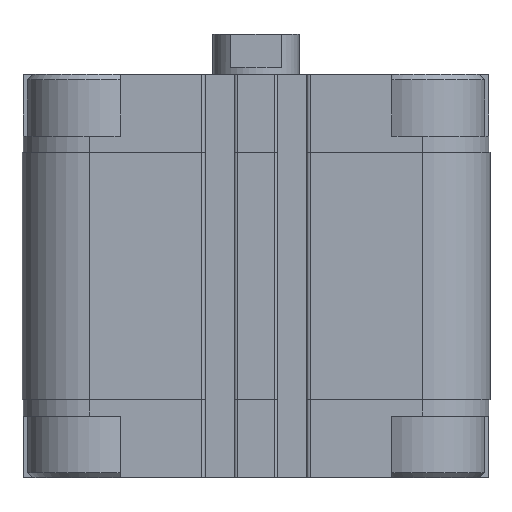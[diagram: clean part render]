
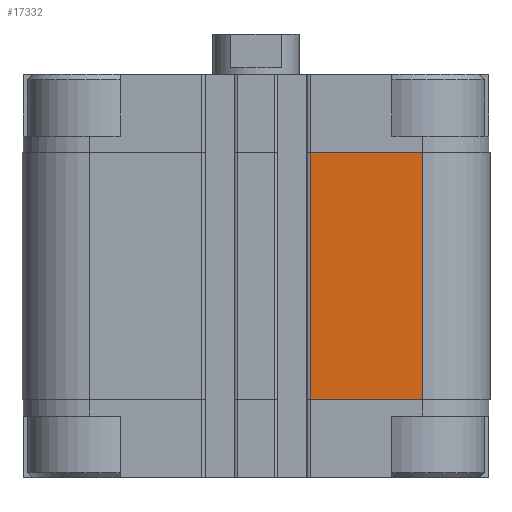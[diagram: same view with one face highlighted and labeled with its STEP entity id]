
A CAD part, front view. The second image highlights one B-rep face of the part: STEP entity #17332.
In plain terms, the highlighted planar face has unit normal (0, -1, 0).
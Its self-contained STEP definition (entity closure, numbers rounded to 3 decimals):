
#364 = LINE ( 'NONE', #3172, #1159 ) ;
#1159 = VECTOR ( 'NONE', #12026, 1000. ) ;
#1855 = LINE ( 'NONE', #13810, #2334 ) ;
#2334 = VECTOR ( 'NONE', #3313, 1000. ) ;
#2582 = VERTEX_POINT ( 'NONE', #17626 ) ;
#2619 = CARTESIAN_POINT ( 'NONE',  ( 10.05, -43.5, -14.5 ) ) ;
#3172 = CARTESIAN_POINT ( 'NONE',  ( 10.05, -43.5, -60.5 ) ) ;
#3313 = DIRECTION ( 'NONE',  ( 0., 0., 1. ) ) ;
#4140 = VECTOR ( 'NONE', #11719, 1000. ) ;
#4187 = DIRECTION ( 'NONE',  ( -1., 0., 0. ) ) ;
#4708 = CARTESIAN_POINT ( 'NONE',  ( 10.05, -43.5, -14.5 ) ) ;
#4738 = EDGE_CURVE ( 'NONE', #11042, #17719, #8516, .T. ) ;
#4882 = EDGE_CURVE ( 'NONE', #17719, #2582, #18034, .T. ) ;
#5111 = ORIENTED_EDGE ( 'NONE', *, *, #12616, .T. ) ;
#6115 = CARTESIAN_POINT ( 'NONE',  ( 10.05, -43.5, -60.5 ) ) ;
#6406 = VERTEX_POINT ( 'NONE', #9179 ) ;
#6857 = CARTESIAN_POINT ( 'NONE',  ( 10.05, -43.5, -60.5 ) ) ;
#6884 = VECTOR ( 'NONE', #8331, 1000. ) ;
#7801 = EDGE_CURVE ( 'NONE', #6406, #2582, #1855, .T. ) ;
#8331 = DIRECTION ( 'NONE',  ( 0., 0., 1. ) ) ;
#8516 = LINE ( 'NONE', #6857, #6884 ) ;
#9179 = CARTESIAN_POINT ( 'NONE',  ( 31., -43.5, -60.5 ) ) ;
#9561 = EDGE_LOOP ( 'NONE', ( #18437, #18026, #5111, #14866 ) ) ;
#11042 = VERTEX_POINT ( 'NONE', #6115 ) ;
#11486 = DIRECTION ( 'NONE',  ( 0., -1., 0. ) ) ;
#11682 = FACE_OUTER_BOUND ( 'NONE', #9561, .T. ) ;
#11719 = DIRECTION ( 'NONE',  ( 1., 0., 0. ) ) ;
#12026 = DIRECTION ( 'NONE',  ( 1., 0., 0. ) ) ;
#12616 = EDGE_CURVE ( 'NONE', #11042, #6406, #364, .T. ) ;
#12850 = PLANE ( 'NONE',  #17144 ) ;
#13810 = CARTESIAN_POINT ( 'NONE',  ( 31., -43.5, -60.5 ) ) ;
#14682 = CARTESIAN_POINT ( 'NONE',  ( 10.05, -43.5, -60.5 ) ) ;
#14866 = ORIENTED_EDGE ( 'NONE', *, *, #7801, .T. ) ;
#17144 = AXIS2_PLACEMENT_3D ( 'NONE', #14682, #11486, #4187 ) ;
#17332 = ADVANCED_FACE ( 'NONE', ( #11682 ), #12850, .T. ) ;
#17626 = CARTESIAN_POINT ( 'NONE',  ( 31., -43.5, -14.5 ) ) ;
#17719 = VERTEX_POINT ( 'NONE', #2619 ) ;
#18026 = ORIENTED_EDGE ( 'NONE', *, *, #4738, .F. ) ;
#18034 = LINE ( 'NONE', #4708, #4140 ) ;
#18437 = ORIENTED_EDGE ( 'NONE', *, *, #4882, .F. ) ;
